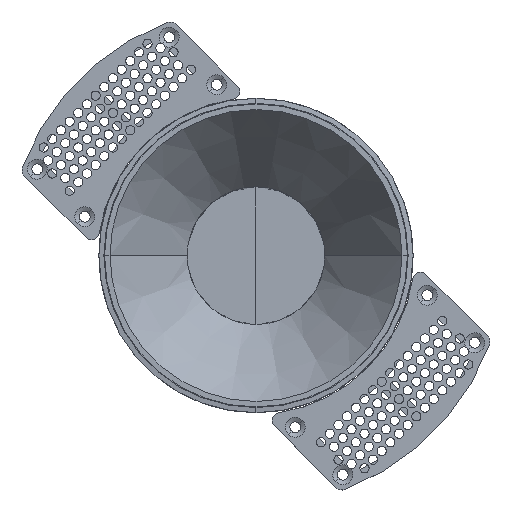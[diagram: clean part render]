
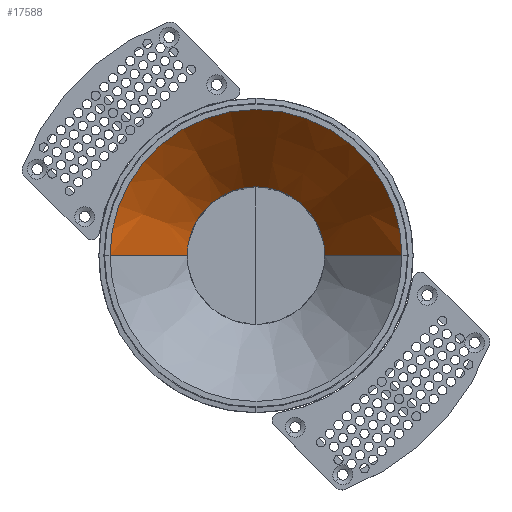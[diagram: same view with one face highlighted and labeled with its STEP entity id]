
A CAD part, top view. The second image highlights one B-rep face of the part: STEP entity #17588.
In plain terms, the highlighted conical face has half-angle 35.986 degrees and reference radius 24.286 mm.
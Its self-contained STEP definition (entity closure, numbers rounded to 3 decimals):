
#1095=CONICAL_SURFACE('',#19357,24.286,0.628);
#1765=FACE_OUTER_BOUND('',#3035,.T.);
#3035=EDGE_LOOP('',(#14669,#14670,#14671,#14672));
#4125=LINE('',#32496,#5296);
#4126=LINE('',#32499,#5297);
#5296=VECTOR('',#23614,304.8);
#5297=VECTOR('',#23617,304.8);
#6536=CIRCLE('',#19354,47.697);
#6538=CIRCLE('',#19358,22.5);
#7946=VERTEX_POINT('',#32487);
#7947=VERTEX_POINT('',#32488);
#7948=VERTEX_POINT('',#32495);
#7949=VERTEX_POINT('',#32497);
#10263=EDGE_CURVE('',#7947,#7946,#6536,.T.);
#10264=EDGE_CURVE('',#7948,#7947,#4125,.T.);
#10266=EDGE_CURVE('',#7946,#7949,#4126,.T.);
#10267=EDGE_CURVE('',#7948,#7949,#6538,.T.);
#14669=ORIENTED_EDGE('',*,*,#10263,.T.);
#14670=ORIENTED_EDGE('',*,*,#10266,.T.);
#14671=ORIENTED_EDGE('',*,*,#10267,.F.);
#14672=ORIENTED_EDGE('',*,*,#10264,.T.);
#17588=ADVANCED_FACE('',(#1765),#1095,.F.);
#19354=AXIS2_PLACEMENT_3D('',#32493,#23610,#23611);
#19357=AXIS2_PLACEMENT_3D('',#32500,#23618,#23619);
#19358=AXIS2_PLACEMENT_3D('',#32501,#23620,#23621);
#23610=DIRECTION('center_axis',(0.,0.,1.));
#23611=DIRECTION('ref_axis',(-0.809,0.588,0.));
#23614=DIRECTION('',(0.588,0.,0.809));
#23617=DIRECTION('',(0.588,0.,-0.809));
#23618=DIRECTION('center_axis',(0.,0.,
1.));
#23619=DIRECTION('ref_axis',(-0.809,0.588,0.));
#23620=DIRECTION('center_axis',(0.,0.,1.));
#23621=DIRECTION('ref_axis',(-1.,0.,0.));
#32487=CARTESIAN_POINT('',(77.303,-100.,2.3));
#32488=CARTESIAN_POINT('',(172.697,-100.,2.3));
#32493=CARTESIAN_POINT('Origin',(125.,-100.,2.3));
#32495=CARTESIAN_POINT('',(147.5,-100.,-32.399));
#32496=CARTESIAN_POINT('',(147.5,-100.,-32.399));
#32497=CARTESIAN_POINT('',(102.5,-100.,-32.399));
#32499=CARTESIAN_POINT('',(77.303,-100.,2.3));
#32500=CARTESIAN_POINT('Origin',(125.,-100.,-29.94));
#32501=CARTESIAN_POINT('Origin',(125.,-100.,-32.399));
